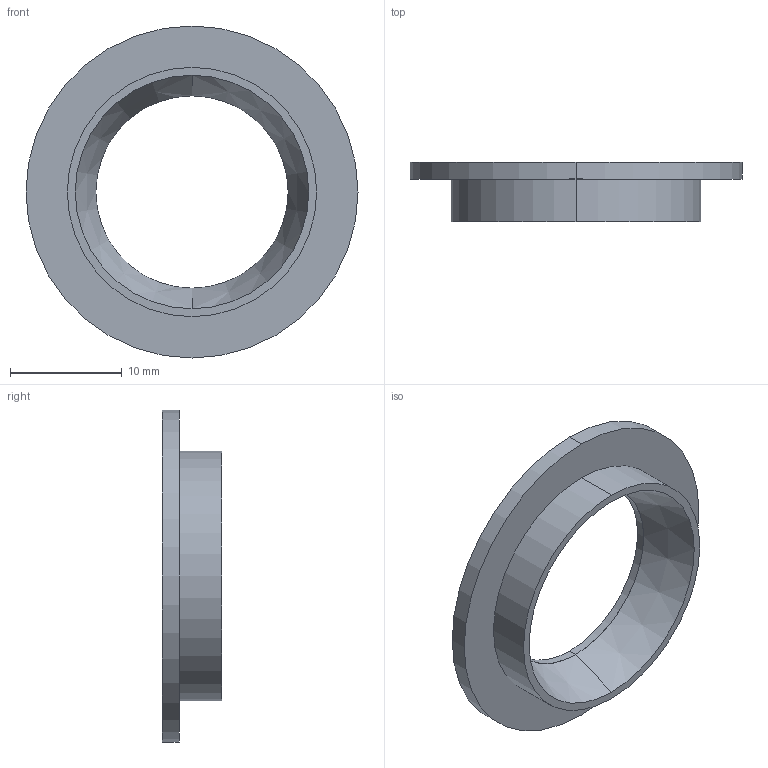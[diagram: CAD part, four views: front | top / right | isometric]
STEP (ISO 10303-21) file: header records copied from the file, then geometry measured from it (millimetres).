
FILE_DESCRIPTION (( 'STEP AP203' ), '1' );
FILE_NAME ('16-17 Washer.STEP', '2019-04-02T03:58:01', ( '' ), ( '' ), 'SwSTEP 2.0', 'SolidWorks 2017', '' );
FILE_SCHEMA (( 'CONFIG_CONTROL_DESIGN' ));
Length unit declared in the file: inch
Products named in the file (1): 16-17 Washer
Bounding box: 29.77 x 5.33 x 29.77 mm (x, y, z)
Volume: 1063.6 mm3; surface area: 1561.9 mm2
Topology: 1 solids, 1 shells, 12 faces, 24 edges, 16 vertices
Faces by surface type: cylinder 6, plane 4, cone 2
Entity records: 407 total; most frequent: DIRECTION 66, CARTESIAN_POINT 53, ORIENTED_EDGE 48, AXIS2_PLACEMENT_3D 29, EDGE_CURVE 24, VERTEX_POINT 16, EDGE_LOOP 16, CIRCLE 16
